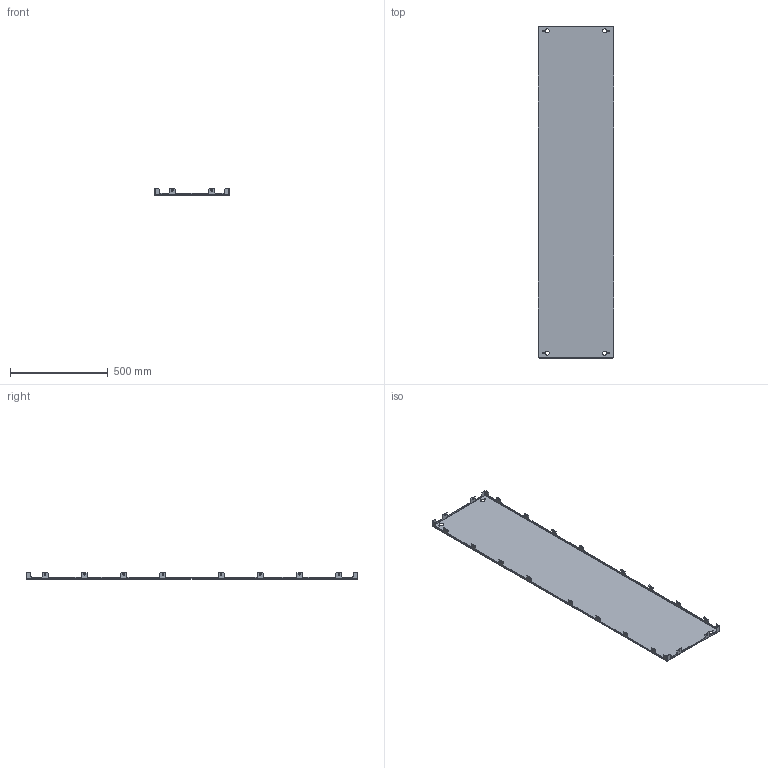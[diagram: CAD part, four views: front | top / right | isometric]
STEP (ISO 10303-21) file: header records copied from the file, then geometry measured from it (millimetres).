
FILE_DESCRIPTION (( 'STEP AP203' ), '1' );
FILE_NAME ('R5LPS1805.STEP', '2021-12-17T12:35:09', ( '' ), ( '' ), 'SwSTEP 2.0', 'SolidWorks 2020', '' );
FILE_SCHEMA (( 'CONFIG_CONTROL_DESIGN' ));
Length unit declared in the file: millimetre
Products named in the file (1): R5LPS1805
Bounding box: 384 x 1698 x 32.5 mm (x, y, z)
Volume: 1393357.1 mm3; surface area: 1405876.6 mm2
Topology: 1 solids, 1 shells, 380 faces, 1102 edges, 724 vertices
Faces by surface type: plane 242, cylinder 138
Entity records: 12659 total; most frequent: CARTESIAN_POINT 2207, ORIENTED_EDGE 2204, DIRECTION 2140, EDGE_CURVE 1102, VECTOR 826, LINE 826, VERTEX_POINT 724, AXIS2_PLACEMENT_3D 657
